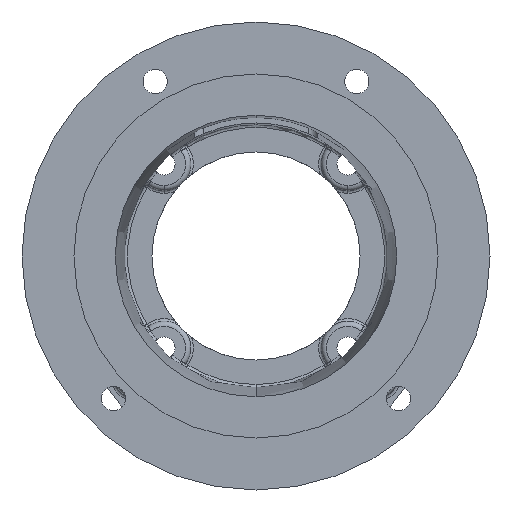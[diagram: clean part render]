
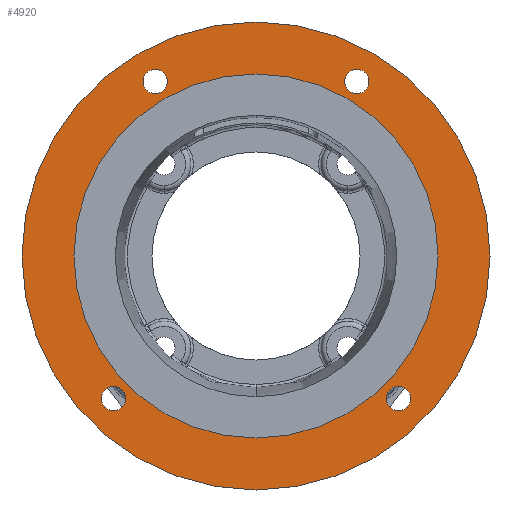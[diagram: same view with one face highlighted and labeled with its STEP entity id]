
A CAD part, front view. The second image highlights one B-rep face of the part: STEP entity #4920.
In plain terms, the highlighted planar face has unit normal (0, -1, 0).
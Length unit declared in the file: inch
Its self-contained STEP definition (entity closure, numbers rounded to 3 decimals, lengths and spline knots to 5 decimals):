
#16 = DIRECTION ( 'NONE',  ( 0., 0., -1. ) ) ;
#45 = EDGE_LOOP ( 'NONE', ( #10995, #5608 ) ) ;
#71 = VERTEX_POINT ( 'NONE', #2220 ) ;
#210 = EDGE_CURVE ( 'NONE', #2142, #11360, #7383, .T. ) ;
#228 = AXIS2_PLACEMENT_3D ( 'NONE', #3650, #4857, #4847 ) ;
#316 = CARTESIAN_POINT ( 'NONE',  ( 2.74004, 0., -2.97441 ) ) ;
#601 = VERTEX_POINT ( 'NONE', #11346 ) ;
#891 = CARTESIAN_POINT ( 'NONE',  ( 1.9375, 0., 3.35585 ) ) ;
#1005 = DIRECTION ( 'NONE',  ( 0., -1., 0. ) ) ;
#1044 = FACE_BOUND ( 'NONE', #4914, .T. ) ;
#1228 = AXIS2_PLACEMENT_3D ( 'NONE', #7927, #8040, #8029 ) ;
#1353 = ORIENTED_EDGE ( 'NONE', *, *, #4517, .F. ) ;
#1357 = DIRECTION ( 'NONE',  ( 0., 0., -1. ) ) ;
#1377 = DIRECTION ( 'NONE',  ( 0., -1., 0. ) ) ;
#1404 = CARTESIAN_POINT ( 'NONE',  ( 2.74004, 0., -2.74004 ) ) ;
#1461 = AXIS2_PLACEMENT_3D ( 'NONE', #4177, #4132, #3767 ) ;
#1619 = AXIS2_PLACEMENT_3D ( 'NONE', #3677, #10306, #4637 ) ;
#1810 = EDGE_CURVE ( 'NONE', #601, #2103, #5736, .T. ) ;
#1892 = DIRECTION ( 'NONE',  ( 0., 0., -1. ) ) ;
#1953 = DIRECTION ( 'NONE',  ( 0., 0., -1. ) ) ;
#2103 = VERTEX_POINT ( 'NONE', #5476 ) ;
#2124 = AXIS2_PLACEMENT_3D ( 'NONE', #11497, #5810, #16 ) ;
#2142 = VERTEX_POINT ( 'NONE', #316 ) ;
#2169 = CARTESIAN_POINT ( 'NONE',  ( 0., 0., 4.5 ) ) ;
#2202 = CIRCLE ( 'NONE', #1619, 0.23438 ) ;
#2206 = DIRECTION ( 'NONE',  ( 0., -1., 0. ) ) ;
#2214 = CARTESIAN_POINT ( 'NONE',  ( -2.74004, 0., -2.97441 ) ) ;
#2220 = CARTESIAN_POINT ( 'NONE',  ( 0., 0., -4.5 ) ) ;
#2259 = ORIENTED_EDGE ( 'NONE', *, *, #10663, .T. ) ;
#2427 = CARTESIAN_POINT ( 'NONE',  ( -2.74004, 0., -2.74004 ) ) ;
#2717 = EDGE_CURVE ( 'NONE', #2103, #601, #7945, .T. ) ;
#2746 = ORIENTED_EDGE ( 'NONE', *, *, #210, .F. ) ;
#2755 = ORIENTED_EDGE ( 'NONE', *, *, #8808, .F. ) ;
#2843 = EDGE_LOOP ( 'NONE', ( #7008, #5588 ) ) ;
#3633 = FACE_BOUND ( 'NONE', #9640, .T. ) ;
#3636 = VERTEX_POINT ( 'NONE', #12342 ) ;
#3650 = CARTESIAN_POINT ( 'NONE',  ( -4.5, 0., 0. ) ) ;
#3677 = CARTESIAN_POINT ( 'NONE',  ( -1.9375, 0., 3.35585 ) ) ;
#3767 = DIRECTION ( 'NONE',  ( 0., 0., -1. ) ) ;
#3795 = DIRECTION ( 'NONE',  ( 0., -1., 0. ) ) ;
#3880 = EDGE_LOOP ( 'NONE', ( #2746, #5075 ) ) ;
#4132 = DIRECTION ( 'NONE',  ( 0., -1., 0. ) ) ;
#4177 = CARTESIAN_POINT ( 'NONE',  ( 0., 0., 0. ) ) ;
#4197 = CARTESIAN_POINT ( 'NONE',  ( -1.9375, 0., 3.12147 ) ) ;
#4272 = AXIS2_PLACEMENT_3D ( 'NONE', #891, #7583, #1892 ) ;
#4384 = CIRCLE ( 'NONE', #1228, 4.5 ) ;
#4463 = EDGE_CURVE ( 'NONE', #71, #4547, #4384, .T. ) ;
#4517 = EDGE_CURVE ( 'NONE', #7484, #6464, #6606, .T. ) ;
#4547 = VERTEX_POINT ( 'NONE', #2169 ) ;
#4605 = CIRCLE ( 'NONE', #12303, 0.23438 ) ;
#4637 = DIRECTION ( 'NONE',  ( 0., 0., -1. ) ) ;
#4694 = VERTEX_POINT ( 'NONE', #5966 ) ;
#4724 = ORIENTED_EDGE ( 'NONE', *, *, #5412, .F. ) ;
#4847 = DIRECTION ( 'NONE',  ( 0., 0., 1. ) ) ;
#4857 = DIRECTION ( 'NONE',  ( 0., 1., 0. ) ) ;
#4893 = PLANE ( 'NONE',  #228 ) ;
#4914 = EDGE_LOOP ( 'NONE', ( #4724, #11817 ) ) ;
#4920 = ADVANCED_FACE ( 'NONE', ( #6146, #1044, #11210, #3633, #10911, #8370 ), #4893, .F. ) ;
#5075 = ORIENTED_EDGE ( 'NONE', *, *, #8087, .F. ) ;
#5093 = AXIS2_PLACEMENT_3D ( 'NONE', #2427, #2206, #1953 ) ;
#5153 = DIRECTION ( 'NONE',  ( 0., 0., -1. ) ) ;
#5177 = DIRECTION ( 'NONE',  ( 0., -1., 0. ) ) ;
#5193 = CARTESIAN_POINT ( 'NONE',  ( 0., 0., 0. ) ) ;
#5266 = CARTESIAN_POINT ( 'NONE',  ( 2.74004, 0., -2.74004 ) ) ;
#5412 = EDGE_CURVE ( 'NONE', #3636, #4694, #10447, .T. ) ;
#5476 = CARTESIAN_POINT ( 'NONE',  ( 0., 0., 3.501 ) ) ;
#5588 = ORIENTED_EDGE ( 'NONE', *, *, #2717, .F. ) ;
#5608 = ORIENTED_EDGE ( 'NONE', *, *, #10798, .F. ) ;
#5736 = CIRCLE ( 'NONE', #10700, 3.501 ) ;
#5810 = DIRECTION ( 'NONE',  ( 0., -1., 0. ) ) ;
#5966 = CARTESIAN_POINT ( 'NONE',  ( 1.9375, 0., 3.59022 ) ) ;
#6146 = FACE_BOUND ( 'NONE', #45, .T. ) ;
#6224 = DIRECTION ( 'NONE',  ( 0., 0., -1. ) ) ;
#6395 = EDGE_LOOP ( 'NONE', ( #7178, #2259 ) ) ;
#6464 = VERTEX_POINT ( 'NONE', #2214 ) ;
#6606 = CIRCLE ( 'NONE', #5093, 0.23438 ) ;
#6650 = AXIS2_PLACEMENT_3D ( 'NONE', #5266, #11912, #6224 ) ;
#6752 = CARTESIAN_POINT ( 'NONE',  ( -2.74004, 0., -2.74004 ) ) ;
#6798 = AXIS2_PLACEMENT_3D ( 'NONE', #1404, #1377, #1357 ) ;
#6876 = VERTEX_POINT ( 'NONE', #4197 ) ;
#6958 = CIRCLE ( 'NONE', #4272, 0.23438 ) ;
#7008 = ORIENTED_EDGE ( 'NONE', *, *, #1810, .F. ) ;
#7178 = ORIENTED_EDGE ( 'NONE', *, *, #4463, .T. ) ;
#7383 = CIRCLE ( 'NONE', #6798, 0.23438 ) ;
#7425 = CARTESIAN_POINT ( 'NONE',  ( -1.9375, 0., 3.59022 ) ) ;
#7484 = VERTEX_POINT ( 'NONE', #8516 ) ;
#7583 = DIRECTION ( 'NONE',  ( 0., -1., 0. ) ) ;
#7665 = CARTESIAN_POINT ( 'NONE',  ( 1.9375, 0., 3.35585 ) ) ;
#7693 = DIRECTION ( 'NONE',  ( 0., 0., -1. ) ) ;
#7769 = CARTESIAN_POINT ( 'NONE',  ( 2.74004, 0., -2.50566 ) ) ;
#7927 = CARTESIAN_POINT ( 'NONE',  ( 0., 0., 0. ) ) ;
#7945 = CIRCLE ( 'NONE', #1461, 3.501 ) ;
#8029 = DIRECTION ( 'NONE',  ( 0., 0., -1. ) ) ;
#8040 = DIRECTION ( 'NONE',  ( 0., -1., 0. ) ) ;
#8087 = EDGE_CURVE ( 'NONE', #11360, #2142, #9186, .T. ) ;
#8370 = FACE_OUTER_BOUND ( 'NONE', #6395, .T. ) ;
#8482 = EDGE_CURVE ( 'NONE', #4694, #3636, #6958, .T. ) ;
#8516 = CARTESIAN_POINT ( 'NONE',  ( -2.74004, 0., -2.50566 ) ) ;
#8808 = EDGE_CURVE ( 'NONE', #6464, #7484, #4605, .T. ) ;
#8997 = AXIS2_PLACEMENT_3D ( 'NONE', #7665, #12075, #12277 ) ;
#9186 = CIRCLE ( 'NONE', #6650, 0.23438 ) ;
#9211 = EDGE_CURVE ( 'NONE', #6876, #10601, #2202, .T. ) ;
#9445 = CARTESIAN_POINT ( 'NONE',  ( 0., 0., 0. ) ) ;
#9640 = EDGE_LOOP ( 'NONE', ( #2755, #1353 ) ) ;
#10306 = DIRECTION ( 'NONE',  ( 0., -1., 0. ) ) ;
#10427 = DIRECTION ( 'NONE',  ( 0., 0., -1. ) ) ;
#10447 = CIRCLE ( 'NONE', #8997, 0.23438 ) ;
#10601 = VERTEX_POINT ( 'NONE', #7425 ) ;
#10637 = AXIS2_PLACEMENT_3D ( 'NONE', #9445, #3795, #10427 ) ;
#10645 = CIRCLE ( 'NONE', #10637, 4.5 ) ;
#10663 = EDGE_CURVE ( 'NONE', #4547, #71, #10645, .T. ) ;
#10700 = AXIS2_PLACEMENT_3D ( 'NONE', #5193, #5177, #5153 ) ;
#10798 = EDGE_CURVE ( 'NONE', #10601, #6876, #12286, .T. ) ;
#10911 = FACE_BOUND ( 'NONE', #2843, .T. ) ;
#10995 = ORIENTED_EDGE ( 'NONE', *, *, #9211, .F. ) ;
#11210 = FACE_BOUND ( 'NONE', #3880, .T. ) ;
#11346 = CARTESIAN_POINT ( 'NONE',  ( 0., 0., -3.501 ) ) ;
#11360 = VERTEX_POINT ( 'NONE', #7769 ) ;
#11497 = CARTESIAN_POINT ( 'NONE',  ( -1.9375, 0., 3.35585 ) ) ;
#11817 = ORIENTED_EDGE ( 'NONE', *, *, #8482, .F. ) ;
#11912 = DIRECTION ( 'NONE',  ( 0., -1., 0. ) ) ;
#12075 = DIRECTION ( 'NONE',  ( 0., -1., 0. ) ) ;
#12277 = DIRECTION ( 'NONE',  ( 0., 0., -1. ) ) ;
#12286 = CIRCLE ( 'NONE', #2124, 0.23438 ) ;
#12303 = AXIS2_PLACEMENT_3D ( 'NONE', #6752, #1005, #7693 ) ;
#12342 = CARTESIAN_POINT ( 'NONE',  ( 1.9375, 0., 3.12147 ) ) ;
